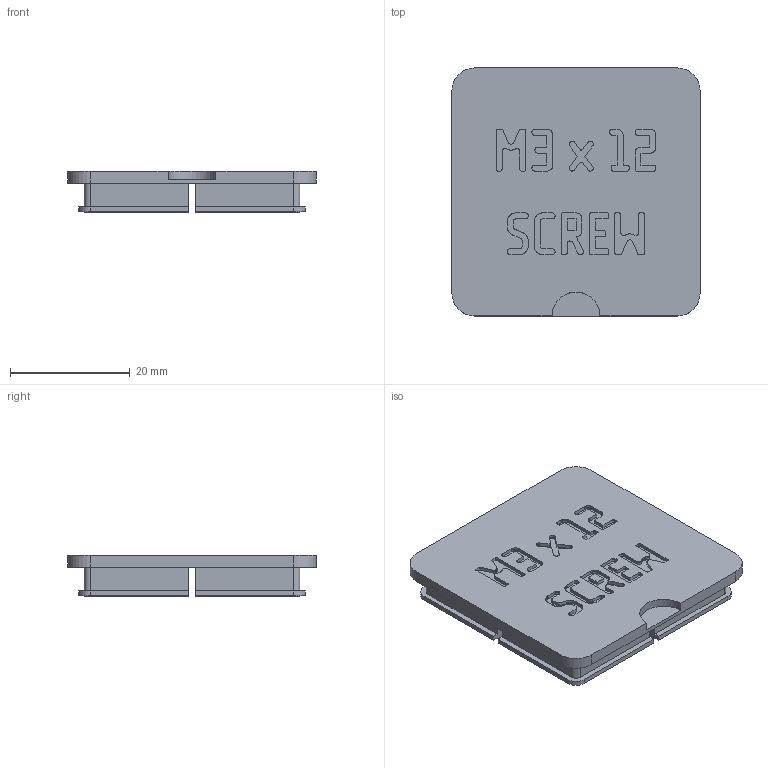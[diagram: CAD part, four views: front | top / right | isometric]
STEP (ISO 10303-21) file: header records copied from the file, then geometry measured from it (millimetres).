
FILE_DESCRIPTION(('Open CASCADE Model'),'2;1');
FILE_NAME('Open CASCADE Shape Model','2026-11-03T17:09:49',('Author'),( 'Open CASCADE'),'Open CASCADE STEP processor 8.0','build123d', 'Unknown');
FILE_SCHEMA(('AUTOMOTIVE_DESIGN { 1 0 10303 214 1 1 1 1 }'));
Products named in the file (1): COMPOUND
Bounding box: 41.5 x 41.5 x 6.9 mm (x, y, z)
Volume: 4184.5 mm3; surface area: 5543.9 mm2
Topology: 1 solids, 1 shells, 1210 faces, 3588 edges, 2392 vertices
Faces by surface type: plane 1189, cylinder 21
Entity records: 86240 total; most frequent: CARTESIAN_POINT 14723, DIRECTION 13032, LINE 10516, VECTOR 10516, ORIENTED_EDGE 7176, PCURVE 7176, DEFINITIONAL_REPRESENTATION 7176, EDGE_CURVE 3588
